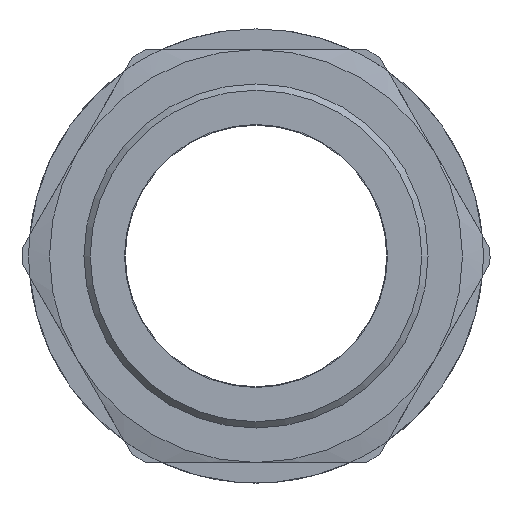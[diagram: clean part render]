
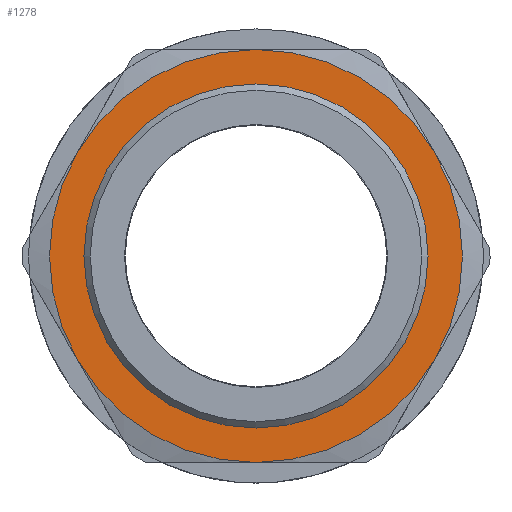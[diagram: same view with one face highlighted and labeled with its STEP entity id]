
A CAD part, front view. The second image highlights one B-rep face of the part: STEP entity #1278.
In plain terms, the highlighted planar face has unit normal (0, -1, 0).
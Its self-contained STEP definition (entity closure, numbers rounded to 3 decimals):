
#24=FACE_BOUND('',#362,.T.);
#216=PLANE('',#1450);
#283=FACE_OUTER_BOUND('',#361,.T.);
#361=EDGE_LOOP('',(#1112,#1113,#1114,#1115,#1116,#1117));
#362=EDGE_LOOP('',(#1118,#1119));
#469=CIRCLE('',#1437,30.);
#470=CIRCLE('',#1439,30.);
#471=CIRCLE('',#1441,30.);
#473=CIRCLE('',#1445,30.);
#474=CIRCLE('',#1447,30.);
#475=CIRCLE('',#1449,30.);
#476=CIRCLE('',#1451,25.);
#477=CIRCLE('',#1452,25.);
#566=VERTEX_POINT('',#2131);
#571=VERTEX_POINT('',#2146);
#576=VERTEX_POINT('',#2161);
#581=VERTEX_POINT('',#2176);
#595=VERTEX_POINT('',#2224);
#597=VERTEX_POINT('',#2242);
#598=VERTEX_POINT('',#2253);
#599=VERTEX_POINT('',#2254);
#767=EDGE_CURVE('',#566,#595,#469,.T.);
#768=EDGE_CURVE('',#571,#566,#470,.T.);
#769=EDGE_CURVE('',#595,#581,#471,.T.);
#772=EDGE_CURVE('',#581,#576,#473,.T.);
#774=EDGE_CURVE('',#576,#597,#474,.T.);
#776=EDGE_CURVE('',#597,#571,#475,.T.);
#777=EDGE_CURVE('',#598,#599,#476,.T.);
#778=EDGE_CURVE('',#599,#598,#477,.T.);
#1112=ORIENTED_EDGE('',*,*,#774,.T.);
#1113=ORIENTED_EDGE('',*,*,#776,.T.);
#1114=ORIENTED_EDGE('',*,*,#768,.T.);
#1115=ORIENTED_EDGE('',*,*,#767,.T.);
#1116=ORIENTED_EDGE('',*,*,#769,.T.);
#1117=ORIENTED_EDGE('',*,*,#772,.T.);
#1118=ORIENTED_EDGE('',*,*,#777,.F.);
#1119=ORIENTED_EDGE('',*,*,#778,.F.);
#1278=ADVANCED_FACE('',(#283,#24),#216,.F.);
#1437=AXIS2_PLACEMENT_3D('',#2228,#1793,#1794);
#1439=AXIS2_PLACEMENT_3D('',#2230,#1797,#1798);
#1441=AXIS2_PLACEMENT_3D('',#2232,#1801,#1802);
#1445=AXIS2_PLACEMENT_3D('',#2240,#1809,#1810);
#1447=AXIS2_PLACEMENT_3D('',#2246,#1813,#1814);
#1449=AXIS2_PLACEMENT_3D('',#2251,#1817,#1818);
#1450=AXIS2_PLACEMENT_3D('',#2252,#1819,#1820);
#1451=AXIS2_PLACEMENT_3D('',#2255,#1821,#1822);
#1452=AXIS2_PLACEMENT_3D('',#2256,#1823,#1824);
#1793=DIRECTION('center_axis',(0.,-1.,0.));
#1794=DIRECTION('ref_axis',(0.,0.,-1.));
#1797=DIRECTION('center_axis',(0.,-1.,0.));
#1798=DIRECTION('ref_axis',(0.,0.,-1.));
#1801=DIRECTION('center_axis',(0.,-1.,0.));
#1802=DIRECTION('ref_axis',(0.,0.,-1.));
#1809=DIRECTION('center_axis',(0.,-1.,0.));
#1810=DIRECTION('ref_axis',(0.,0.,-1.));
#1813=DIRECTION('center_axis',(0.,-1.,0.));
#1814=DIRECTION('ref_axis',(0.,0.,-1.));
#1817=DIRECTION('center_axis',(0.,-1.,0.));
#1818=DIRECTION('ref_axis',(0.,0.,-1.));
#1819=DIRECTION('center_axis',(0.,1.,0.));
#1820=DIRECTION('ref_axis',(0.,0.,1.));
#1821=DIRECTION('center_axis',(0.,-1.,0.));
#1822=DIRECTION('ref_axis',(0.,0.,-1.));
#1823=DIRECTION('center_axis',(0.,-1.,0.));
#1824=DIRECTION('ref_axis',(0.,0.,-1.));
#2131=CARTESIAN_POINT('',(0.,10.,30.));
#2146=CARTESIAN_POINT('',(25.981,10.,15.));
#2161=CARTESIAN_POINT('',(0.,10.,-30.));
#2176=CARTESIAN_POINT('',(-25.981,10.,-15.));
#2224=CARTESIAN_POINT('',(-25.981,10.,15.));
#2228=CARTESIAN_POINT('Origin',(0.,10.,0.));
#2230=CARTESIAN_POINT('Origin',(0.,10.,0.));
#2232=CARTESIAN_POINT('Origin',(0.,10.,0.));
#2240=CARTESIAN_POINT('Origin',(0.,10.,0.));
#2242=CARTESIAN_POINT('',(25.981,10.,-15.));
#2246=CARTESIAN_POINT('Origin',(0.,10.,0.));
#2251=CARTESIAN_POINT('Origin',(0.,10.,0.));
#2252=CARTESIAN_POINT('Origin',(30.,10.,0.));
#2253=CARTESIAN_POINT('',(0.,10.,-25.));
#2254=CARTESIAN_POINT('',(0.,10.,25.));
#2255=CARTESIAN_POINT('Origin',(0.,10.,0.));
#2256=CARTESIAN_POINT('Origin',(0.,10.,0.));
